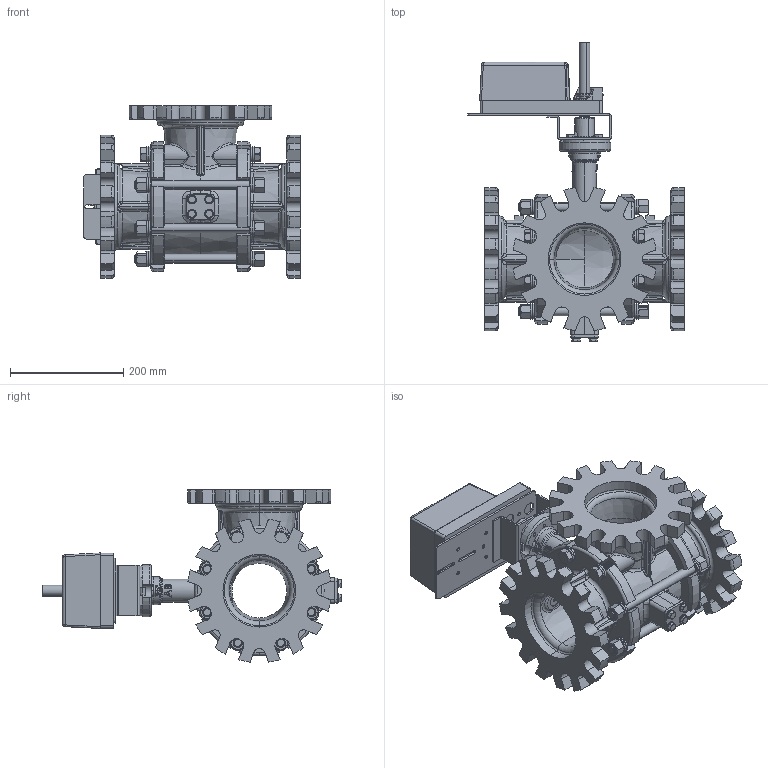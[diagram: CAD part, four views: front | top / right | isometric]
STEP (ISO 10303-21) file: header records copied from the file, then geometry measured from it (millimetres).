
FILE_DESCRIPTION (( 'STEP AP203' ), '1' );
FILE_NAME ('F3WR.K.x.1.70.step', '2024-04-24T07:50:43', ( '' ), ( '' ), 'SwSTEP 2.0', 'SolidWorks 2023', '' );
FILE_SCHEMA (( 'CONFIG_CONTROL_DESIGN' ));
Products named in the file (1): F3WR.K.x.1.70
Bounding box: 382.6 x 528.54 x 303.73 mm (x, y, z)
Surface area: 1025923.1 mm2 (no closed solid volume)
Topology: 0 solids, 127 shells, 1999 faces, 5575 edges, 3625 vertices
Faces by surface type: cylinder 631, plane 524, cone 327, torus 294, bspline 223
Entity records: 90081 total; most frequent: CARTESIAN_POINT 41165, DIRECTION 10148, ORIENTED_EDGE 9782, EDGE_CURVE 5566, AXIS2_PLACEMENT_3D 4099, VERTEX_POINT 3625, CIRCLE 2322, EDGE_LOOP 2155
